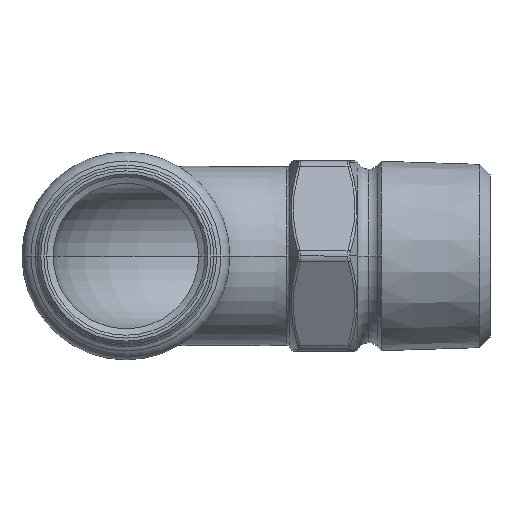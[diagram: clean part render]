
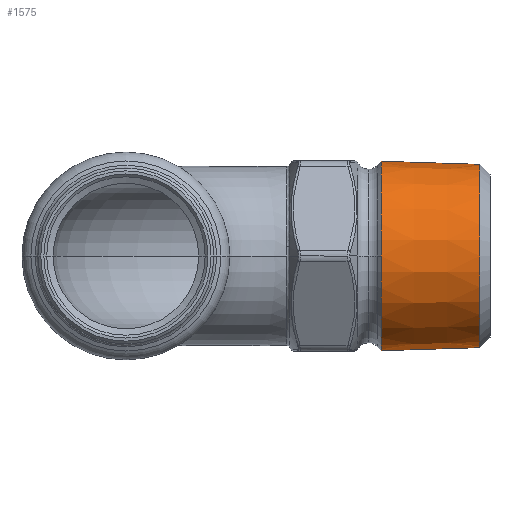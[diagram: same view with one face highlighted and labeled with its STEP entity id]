
A CAD part, front view. The second image highlights one B-rep face of the part: STEP entity #1575.
In plain terms, the highlighted conical face has half-angle 1.78 degrees and reference radius 16.976 mm.
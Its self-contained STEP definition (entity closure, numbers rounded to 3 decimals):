
#86 = DIRECTION ( 'NONE',  ( 0., 0., 1. ) ) ;
#100 = VERTEX_POINT ( 'NONE', #3146 ) ;
#195 = DIRECTION ( 'NONE',  ( -1., 0., -0.031 ) ) ;
#353 = ORIENTED_EDGE ( 'NONE', *, *, #1954, .F. ) ;
#426 = CARTESIAN_POINT ( 'NONE',  ( 45.604, 0., 16.904 ) ) ;
#489 = CARTESIAN_POINT ( 'NONE',  ( 43.298, 0., 16.976 ) ) ;
#598 = DIRECTION ( 'NONE',  ( 1., 0., 0. ) ) ;
#665 = AXIS2_PLACEMENT_3D ( 'NONE', #2511, #5352, #86 ) ;
#928 = VERTEX_POINT ( 'NONE', #5018 ) ;
#966 = CIRCLE ( 'NONE', #5605, 16.904 ) ;
#968 = DIRECTION ( 'NONE',  ( -1., 0., 0.031 ) ) ;
#1190 = AXIS2_PLACEMENT_3D ( 'NONE', #1512, #4842, #1996 ) ;
#1512 = CARTESIAN_POINT ( 'NONE',  ( 63.141, 0., 0. ) ) ;
#1575 = ADVANCED_FACE ( 'NONE', ( #4141 ), #2755, .T. ) ;
#1706 = ORIENTED_EDGE ( 'NONE', *, *, #4220, .T. ) ;
#1954 = EDGE_CURVE ( 'NONE', #4677, #928, #5776, .T. ) ;
#1996 = DIRECTION ( 'NONE',  ( 0., 0., -1. ) ) ;
#2135 = CARTESIAN_POINT ( 'NONE',  ( 43.298, 0., -16.976 ) ) ;
#2189 = CARTESIAN_POINT ( 'NONE',  ( 45.604, 0., 0. ) ) ;
#2511 = CARTESIAN_POINT ( 'NONE',  ( 43.298, 0., 0. ) ) ;
#2686 = DIRECTION ( 'NONE',  ( 0., 0., 1. ) ) ;
#2755 = CONICAL_SURFACE ( 'NONE', #665, 16.976, 0.031 ) ;
#2824 = AXIS2_PLACEMENT_3D ( 'NONE', #2189, #5524, #2686 ) ;
#2959 = LINE ( 'NONE', #489, #5770 ) ;
#3055 = EDGE_CURVE ( 'NONE', #100, #3305, #2959, .T. ) ;
#3146 = CARTESIAN_POINT ( 'NONE',  ( 63.141, 0., 16.359 ) ) ;
#3230 = ORIENTED_EDGE ( 'NONE', *, *, #5394, .T. ) ;
#3305 = VERTEX_POINT ( 'NONE', #426 ) ;
#3334 = CARTESIAN_POINT ( 'NONE',  ( 63.141, 0., -16.359 ) ) ;
#3378 = CARTESIAN_POINT ( 'NONE',  ( 45.604, -16.904, 0. ) ) ;
#3479 = CARTESIAN_POINT ( 'NONE',  ( 45.604, 0., 0. ) ) ;
#3634 = VERTEX_POINT ( 'NONE', #3378 ) ;
#3948 = DIRECTION ( 'NONE',  ( 0., 0., 1. ) ) ;
#4061 = EDGE_CURVE ( 'NONE', #100, #4677, #5016, .T. ) ;
#4141 = FACE_OUTER_BOUND ( 'NONE', #6121, .T. ) ;
#4220 = EDGE_CURVE ( 'NONE', #3634, #928, #5991, .T. ) ;
#4353 = VECTOR ( 'NONE', #195, 1000. ) ;
#4677 = VERTEX_POINT ( 'NONE', #3334 ) ;
#4842 = DIRECTION ( 'NONE',  ( 1., 0., 0. ) ) ;
#5016 = CIRCLE ( 'NONE', #1190, 16.359 ) ;
#5018 = CARTESIAN_POINT ( 'NONE',  ( 45.604, 0., -16.904 ) ) ;
#5143 = ORIENTED_EDGE ( 'NONE', *, *, #4061, .F. ) ;
#5352 = DIRECTION ( 'NONE',  ( -1., 0., 0. ) ) ;
#5394 = EDGE_CURVE ( 'NONE', #3305, #3634, #966, .T. ) ;
#5524 = DIRECTION ( 'NONE',  ( 1., 0., 0. ) ) ;
#5605 = AXIS2_PLACEMENT_3D ( 'NONE', #3479, #598, #3948 ) ;
#5770 = VECTOR ( 'NONE', #968, 1000. ) ;
#5776 = LINE ( 'NONE', #2135, #4353 ) ;
#5991 = CIRCLE ( 'NONE', #2824, 16.904 ) ;
#6121 = EDGE_LOOP ( 'NONE', ( #353, #5143, #6180, #3230, #1706 ) ) ;
#6180 = ORIENTED_EDGE ( 'NONE', *, *, #3055, .T. ) ;
